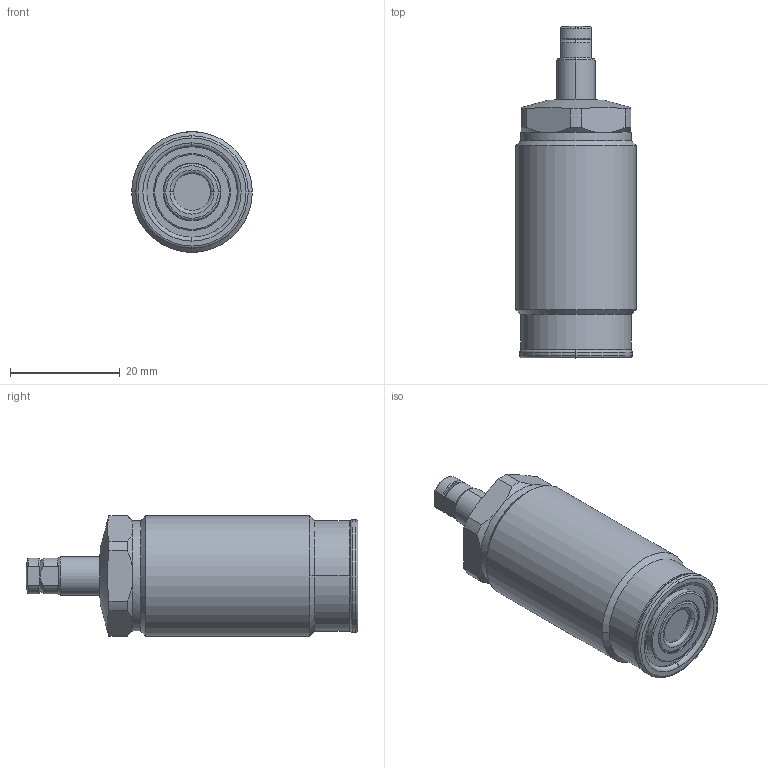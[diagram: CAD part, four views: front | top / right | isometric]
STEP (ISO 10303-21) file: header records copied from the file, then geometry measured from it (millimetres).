
FILE_DESCRIPTION(/* description */ (''),/* implementation_level */ '2;1');
FILE_NAME(/* name */ 'TNE22.stp',/* time_stamp */ '2025-01-09T15:41:07+08:00',/* author */ (''),/* organization */ (''),/* preprocessor_version */ 'ST-DEVELOPER v16.7',/* originating_system */ 'SIEMENS PLM Software NX 12.0',/* authorisation */ '');
FILE_SCHEMA (('AUTOMOTIVE_DESIGN { 1 0 10303 214 3 1 1 1 }'));
Length unit declared in the file: millimetre
Products named in the file (7): XLD-M4_contactbolt736; XLD-M4_Oring737; TNE22-1; TNE22-04; TNE22-02; TNE22-03; TNE22_stp
Assembly tree (6 placements, depth 3):
  TNE22_stp
    TNE22-02
    TNE22-04
    TNE22-03
      XLD-M4_Oring737
      XLD-M4_contactbolt736
    TNE22-1
Bounding box: 22 x 60.5 x 22 mm (x, y, z)
Volume: 17075.9 mm3; surface area: 4806 mm2
Topology: 5 solids, 5 shells, 139 faces, 302 edges, 180 vertices
Faces by surface type: cylinder 43, torus 38, plane 34, cone 22, sphere 2
Full cylindrical faces by diameter (mm): 20.2 x1, 22 x1
Entity records: 4115 total; most frequent: CARTESIAN_POINT 834, DIRECTION 747, ORIENTED_EDGE 596, AXIS2_PLACEMENT_3D 335, EDGE_CURVE 298, CIRCLE 189, VERTEX_POINT 180, EDGE_LOOP 156
